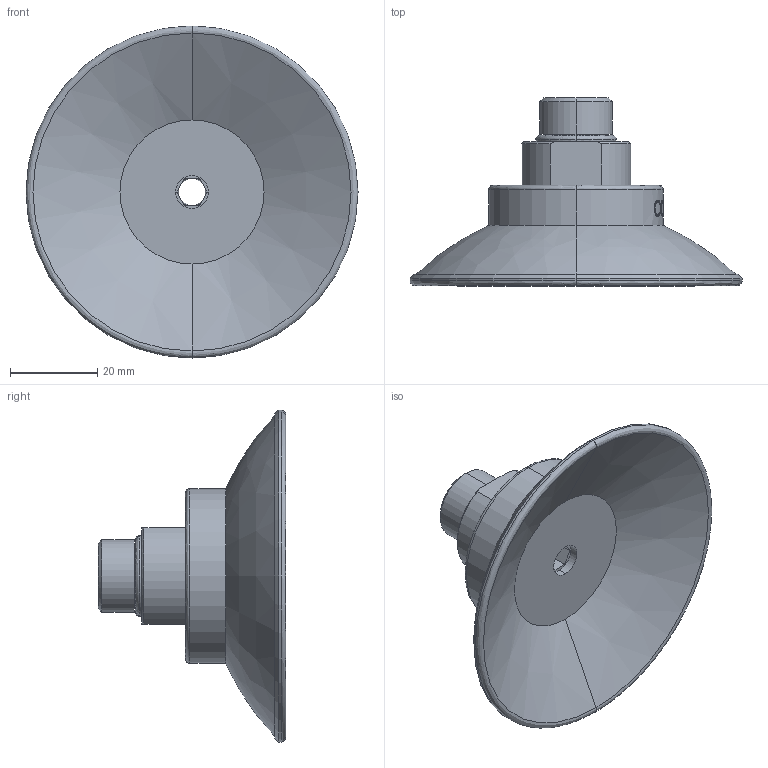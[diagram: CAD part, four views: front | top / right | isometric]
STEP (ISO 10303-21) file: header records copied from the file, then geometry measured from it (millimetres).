
FILE_DESCRIPTION (( 'STEP AP214' ), '1' );
FILE_NAME ('SAF-60-G3-8AG.STEP', '2023-03-07T06:00:43', ( 'Windows User' ), ( 'P R C' ), 'SwSTEP 2.0', 'SolidWorks 2019', '' );
FILE_SCHEMA (( 'AUTOMOTIVE_DESIGN' ));
Length unit declared in the file: millimetre
Products named in the file (1): SAF-60-G3-8AG
Bounding box: 76 x 43 x 76 mm (x, y, z)
Volume: 37329.5 mm3; surface area: 15589.4 mm2
Topology: 3 solids, 3 shells, 131 faces, 312 edges, 200 vertices
Faces by surface type: bspline 43, plane 40, cylinder 32, cone 16
Entity records: 15139 total; most frequent: CARTESIAN_POINT 10773, ORIENTED_EDGE 624, DIRECTION 536, EDGE_CURVE 312, AXIS2_PLACEMENT_3D 203, VERTEX_POINT 200, EDGE_LOOP 150, UNCERTAINTY_MEASURE_WITH_UNIT 136
